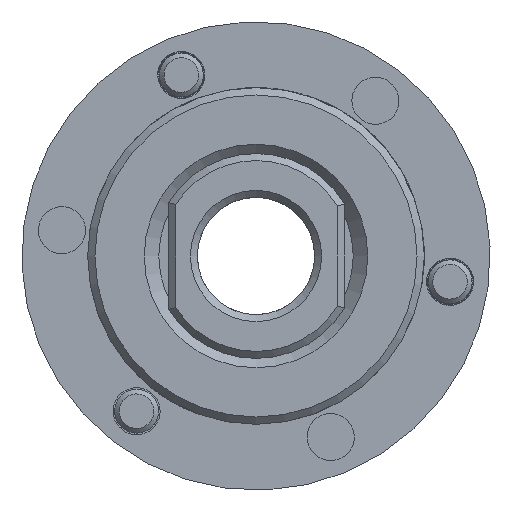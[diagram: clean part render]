
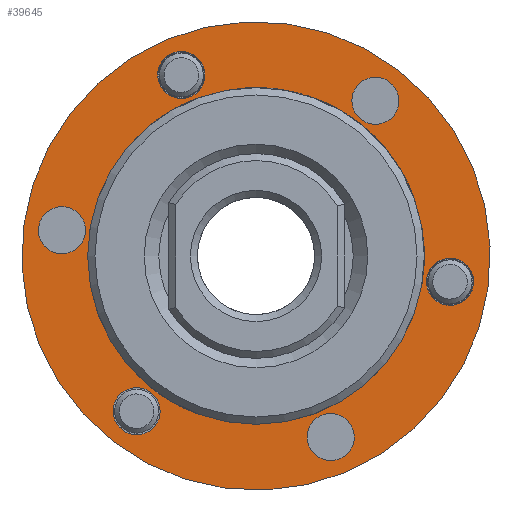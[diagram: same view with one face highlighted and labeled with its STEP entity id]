
A CAD part, front view. The second image highlights one B-rep face of the part: STEP entity #39645.
In plain terms, the highlighted planar face has unit normal (0, -1, 0).
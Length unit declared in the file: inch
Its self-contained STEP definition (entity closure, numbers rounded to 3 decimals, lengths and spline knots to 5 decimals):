
#39417=CARTESIAN_POINT('',(-0.6235,-0.01,-0.418));
#39418=VERTEX_POINT('',#39417);
#39419=CARTESIAN_POINT('',(-0.724,-0.01,-0.418));
#39420=DIRECTION('',(0.0,1.0,0.0));
#39421=DIRECTION('',(-1.0,0.0,0.0));
#39422=AXIS2_PLACEMENT_3D('',#39419,#39420,#39421);
#39423=CIRCLE('',#39422,0.1005);
#39424=EDGE_CURVE('',#39418,#39418,#39423,.T.);
#39445=CARTESIAN_POINT('',(0.1005,-0.01,0.836));
#39446=VERTEX_POINT('',#39445);
#39447=CARTESIAN_POINT('',(0.,-0.01,0.836));
#39448=DIRECTION('',(0.0,1.0,0.0));
#39449=DIRECTION('',(-1.0,0.0,0.0));
#39450=AXIS2_PLACEMENT_3D('',#39447,#39448,#39449);
#39451=CIRCLE('',#39450,0.1005);
#39452=EDGE_CURVE('',#39446,#39446,#39451,.T.);
#39473=CARTESIAN_POINT('',(0.8245,-0.01,-0.418));
#39474=VERTEX_POINT('',#39473);
#39475=CARTESIAN_POINT('',(0.724,-0.01,-0.418));
#39476=DIRECTION('',(0.0,1.0,0.0));
#39477=DIRECTION('',(-1.0,0.0,0.0));
#39478=AXIS2_PLACEMENT_3D('',#39475,#39476,#39477);
#39479=CIRCLE('',#39478,0.1005);
#39480=EDGE_CURVE('',#39474,#39474,#39479,.T.);
#39501=CARTESIAN_POINT('',(-0.6235,-0.01,0.418));
#39502=VERTEX_POINT('',#39501);
#39503=CARTESIAN_POINT('',(-0.724,-0.01,0.418));
#39504=DIRECTION('',(0.0,1.0,0.0));
#39505=DIRECTION('',(-1.0,0.0,0.0));
#39506=AXIS2_PLACEMENT_3D('',#39503,#39504,#39505);
#39507=CIRCLE('',#39506,0.1005);
#39508=EDGE_CURVE('',#39502,#39502,#39507,.T.);
#39529=CARTESIAN_POINT('',(0.8245,-0.01,0.418));
#39530=VERTEX_POINT('',#39529);
#39531=CARTESIAN_POINT('',(0.724,-0.01,0.418));
#39532=DIRECTION('',(0.0,1.0,0.0));
#39533=DIRECTION('',(-1.0,0.0,0.0));
#39534=AXIS2_PLACEMENT_3D('',#39531,#39532,#39533);
#39535=CIRCLE('',#39534,0.1005);
#39536=EDGE_CURVE('',#39530,#39530,#39535,.T.);
#39557=CARTESIAN_POINT('',(0.1005,-0.01,-0.836));
#39558=VERTEX_POINT('',#39557);
#39559=CARTESIAN_POINT('',(0.,-0.01,-0.836));
#39560=DIRECTION('',(0.0,1.0,0.0));
#39561=DIRECTION('',(-1.0,0.0,0.0));
#39562=AXIS2_PLACEMENT_3D('',#39559,#39560,#39561);
#39563=CIRCLE('',#39562,0.1005);
#39564=EDGE_CURVE('',#39558,#39558,#39563,.T.);
#39585=CARTESIAN_POINT('',(1.0,-0.01,0.0));
#39586=VERTEX_POINT('',#39585);
#39587=CARTESIAN_POINT('',(0.,-0.01,0.0));
#39588=DIRECTION('',(0.0,-1.0,0.0));
#39589=DIRECTION('',(1.0,0.0,0.0));
#39590=AXIS2_PLACEMENT_3D('',#39587,#39588,#39589);
#39591=CIRCLE('',#39590,1.0);
#39592=EDGE_CURVE('',#39586,#39586,#39591,.T.);
#39608=CARTESIAN_POINT('',(0.73425,-0.01,0.0));
#39609=DIRECTION('',(0.0,-1.0,0.0));
#39610=DIRECTION('',(0.0,0.0,-1.0));
#39611=AXIS2_PLACEMENT_3D('',#39608,#39609,#39610);
#39612=PLANE('',#39611);
#39613=ORIENTED_EDGE('',*,*,#39592,.T.);
#39614=EDGE_LOOP('',(#39613));
#39615=FACE_OUTER_BOUND('',#39614,.T.);
#39616=ORIENTED_EDGE('',*,*,#39424,.T.);
#39617=EDGE_LOOP('',(#39616));
#39618=FACE_BOUND('',#39617,.T.);
#39619=ORIENTED_EDGE('',*,*,#39452,.T.);
#39620=EDGE_LOOP('',(#39619));
#39621=FACE_BOUND('',#39620,.T.);
#39622=ORIENTED_EDGE('',*,*,#39480,.T.);
#39623=EDGE_LOOP('',(#39622));
#39624=FACE_BOUND('',#39623,.T.);
#39625=ORIENTED_EDGE('',*,*,#39508,.T.);
#39626=EDGE_LOOP('',(#39625));
#39627=FACE_BOUND('',#39626,.T.);
#39628=ORIENTED_EDGE('',*,*,#39536,.T.);
#39629=EDGE_LOOP('',(#39628));
#39630=FACE_BOUND('',#39629,.T.);
#39631=ORIENTED_EDGE('',*,*,#39564,.T.);
#39632=EDGE_LOOP('',(#39631));
#39633=FACE_BOUND('',#39632,.T.);
#39634=CARTESIAN_POINT('',(0.4685,-0.01,0.0));
#39635=VERTEX_POINT('',#39634);
#39636=CARTESIAN_POINT('',(0.,-0.01,0.0));
#39637=DIRECTION('',(0.0,-1.0,0.0));
#39638=DIRECTION('',(1.0,0.0,0.0));
#39639=AXIS2_PLACEMENT_3D('',#39636,#39637,#39638);
#39640=CIRCLE('',#39639,0.4685);
#39641=EDGE_CURVE('',#39635,#39635,#39640,.T.);
#39642=ORIENTED_EDGE('',*,*,#39641,.F.);
#39643=EDGE_LOOP('',(#39642));
#39644=FACE_BOUND('',#39643,.T.);
#39645=ADVANCED_FACE('',(#39615,#39618,#39621,#39624,#39627,#39630,#39633,#39644),#39612,.T.);
